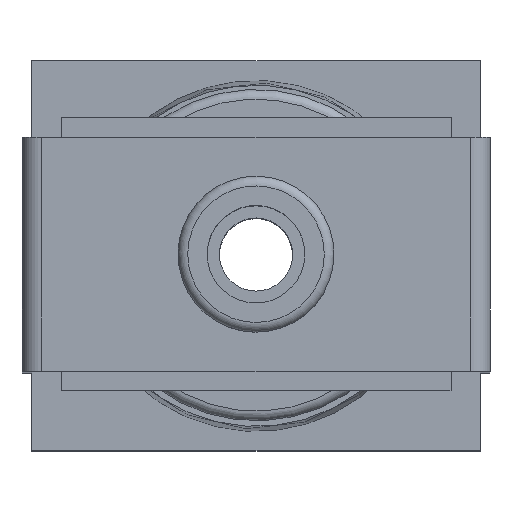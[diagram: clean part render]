
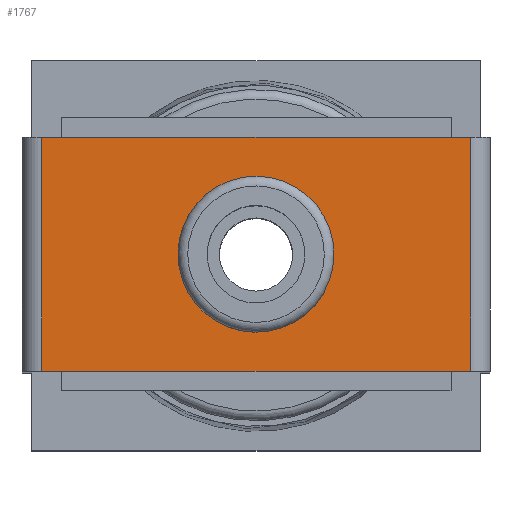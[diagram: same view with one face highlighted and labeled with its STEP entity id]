
A CAD part, top view. The second image highlights one B-rep face of the part: STEP entity #1767.
In plain terms, the highlighted planar face has unit normal (0, 0, 1).
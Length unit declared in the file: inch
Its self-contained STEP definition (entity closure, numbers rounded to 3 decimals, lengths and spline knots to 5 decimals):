
#129=LINE('',#2592,#219);
#145=LINE('',#2633,#235);
#147=LINE('',#2636,#237);
#149=LINE('',#2640,#239);
#219=VECTOR('',#2155,3.);
#235=VECTOR('',#2197,3.);
#237=VECTOR('',#2201,5.5);
#239=VECTOR('',#2207,5.5);
#299=PLANE('',#1923);
#344=FACE_BOUND('',#561,.T.);
#345=FACE_BOUND('',#562,.T.);
#561=EDGE_LOOP('',(#1288));
#562=EDGE_LOOP('',(#1289,#1290,#1291,#1292));
#708=CIRCLE('',#1893,0.75);
#798=VERTEX_POINT('',#2550);
#808=VERTEX_POINT('',#2577);
#809=VERTEX_POINT('',#2581);
#820=VERTEX_POINT('',#2618);
#821=VERTEX_POINT('',#2622);
#962=EDGE_CURVE('',#798,#798,#708,.T.);
#982=EDGE_CURVE('',#808,#809,#129,.T.);
#1002=EDGE_CURVE('',#820,#821,#145,.T.);
#1004=EDGE_CURVE('',#808,#821,#147,.T.);
#1006=EDGE_CURVE('',#820,#809,#149,.T.);
#1288=ORIENTED_EDGE('',*,*,#962,.T.);
#1289=ORIENTED_EDGE('',*,*,#1002,.T.);
#1290=ORIENTED_EDGE('',*,*,#1004,.F.);
#1291=ORIENTED_EDGE('',*,*,#982,.T.);
#1292=ORIENTED_EDGE('',*,*,#1006,.F.);
#1767=ADVANCED_FACE('',(#344,#345),#299,.T.);
#1893=AXIS2_PLACEMENT_3D('',#2551,#2112,#2113);
#1923=AXIS2_PLACEMENT_3D('',#2641,#2208,#2209);
#2112=DIRECTION('center_axis',(0.,0.,
-1.));
#2113=DIRECTION('ref_axis',(-1.,0.,0.));
#2155=DIRECTION('',(0.,1.,0.));
#2197=DIRECTION('',(0.,-1.,0.));
#2201=DIRECTION('',(-1.,0.,0.));
#2207=DIRECTION('',(1.,0.,0.));
#2208=DIRECTION('center_axis',(0.,0.,
1.));
#2209=DIRECTION('ref_axis',(-1.,0.,0.));
#2550=CARTESIAN_POINT('',(-0.75,0.,0.));
#2551=CARTESIAN_POINT('Origin',(0.,0.,
0.));
#2577=CARTESIAN_POINT('',(2.75,-1.5,0.));
#2581=CARTESIAN_POINT('',(2.75,1.5,0.));
#2592=CARTESIAN_POINT('',(2.75,0.75,0.));
#2618=CARTESIAN_POINT('',(-2.75,1.5,0.));
#2622=CARTESIAN_POINT('',(-2.75,-1.5,0.));
#2633=CARTESIAN_POINT('',(-2.75,-0.75,0.));
#2636=CARTESIAN_POINT('',(-3.,-1.5,0.));
#2640=CARTESIAN_POINT('',(3.,1.5,0.));
#2641=CARTESIAN_POINT('Origin',(0.,0.,
0.));
